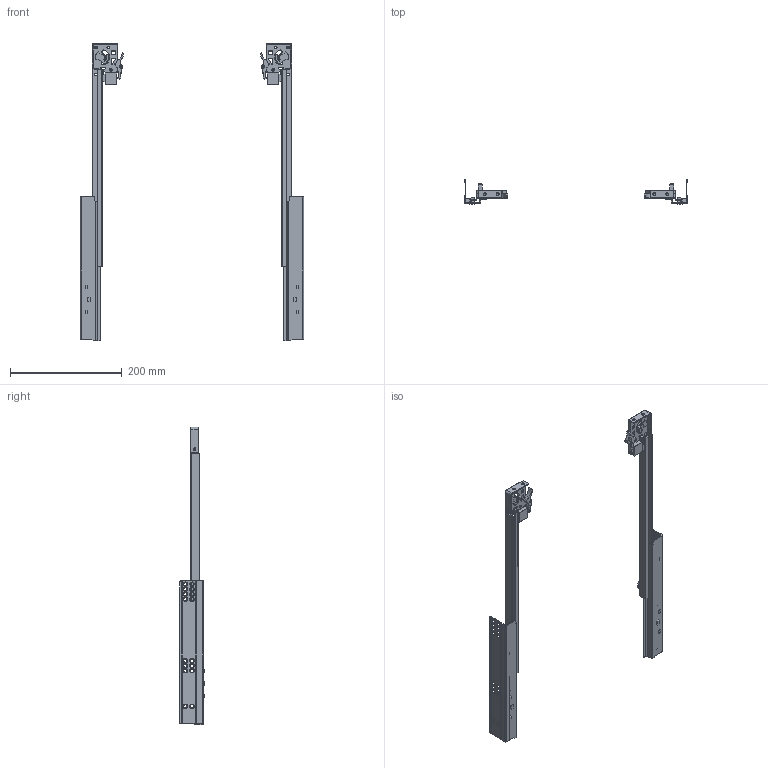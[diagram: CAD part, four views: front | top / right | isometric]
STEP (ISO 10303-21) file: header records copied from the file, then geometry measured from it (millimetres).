
FILE_DESCRIPTION(/* description */ (''),/* implementation_level */ '2;1');
FILE_NAME(/* name */ 'D:\$Workingspace\Designs\Katalog\Cadsoft\GTV Prowadnice\Prowadnice GTV_bryły 3D\PB-GCHX-400_wysunieta.stp',/* time_stamp */ '2016-11-21T15:28:10+01:00',/* author */ ('tomaszw'),/* organization */ (''),/* preprocessor_version */ 'ST-DEVELOPER v16.1',/* originating_system */ 'Autodesk Inventor 2016',/* authorisation */ '');
FILE_SCHEMA (('AUTOMOTIVE_DESIGN { 1 0 10303 214 3 1 1 }'));
Length unit declared in the file: millimetre
Products named in the file (7): PB-GCHX-CL-400; PB-GCHX-CR-400; PB-GCHX-DL-400; PB-GCHX-DR-400; PB-GCHX-SL; PB-GCHX-SR; PB-GCHX
Assembly tree (6 placements, depth 2):
  PB-GCHX
    PB-GCHX-CL-400
    PB-GCHX-CR-400
    PB-GCHX-DL-400
    PB-GCHX-DR-400
    PB-GCHX-SL
    PB-GCHX-SR
Bounding box: 400 x 43.8 x 533.5 mm (x, y, z)
Volume: 206473.3 mm3; surface area: 212994.1 mm2
Topology: 16 solids, 16 shells, 1192 faces, 2836 edges, 1678 vertices
Faces by surface type: cylinder 444, plane 342, torus 222, sphere 82, bspline 70, cone 32
Full cylindrical faces by diameter (mm): 2 x2, 3 x2, 4 x6, 4.5 x6, 5 x2, 6 x32, 7.889 x2, 9 x2
Entity records: 40715 total; most frequent: CARTESIAN_POINT 12049, DIRECTION 6046, ORIENTED_EDGE 5368, EDGE_CURVE 2682, AXIS2_PLACEMENT_3D 2387, VERTEX_POINT 1634, EDGE_LOOP 1426, LINE 1272
